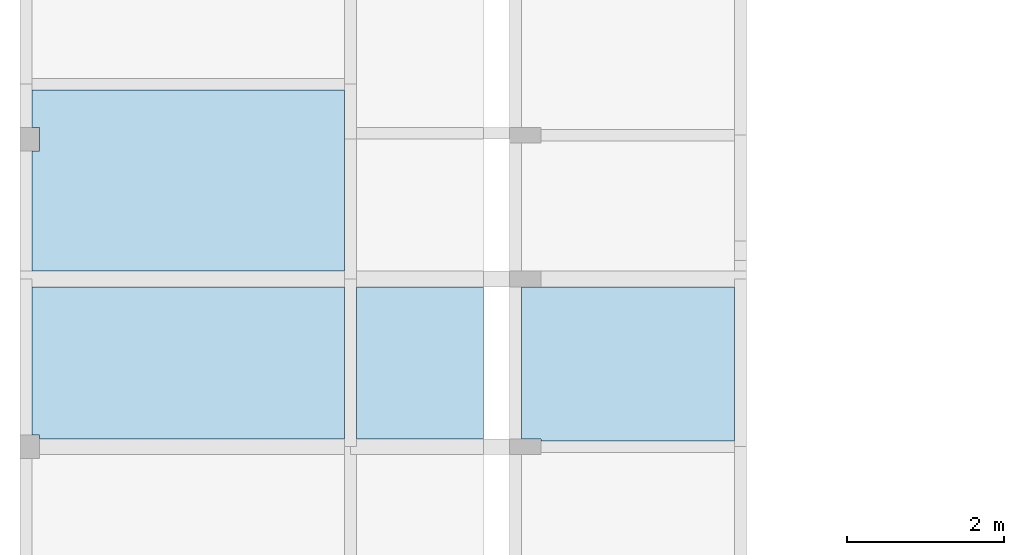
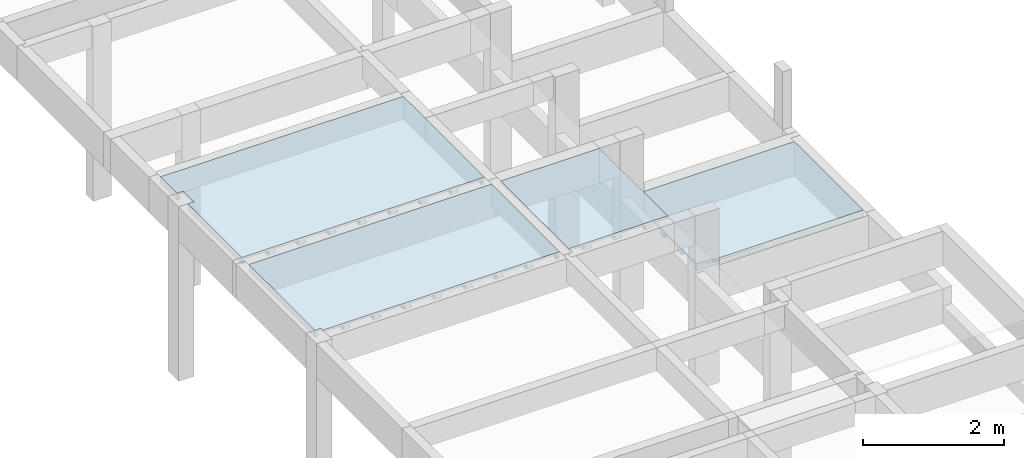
# One storey, part 11 of 21: 4 slabs.
"""IFC4 building model written with IfcOpenShell, lengths in centimetres."""

from ifc_helpers import new_model, si_unit, derived_unit, frame, origin_with_axes, place, context, project, spatial, polyline, outline, extrude, faceted_brep, material, element, save


model = new_model("IFC4")

# Units and contexts
model_context = context("Model", 3, precision=1e-05, world=origin_with_axes(), identifier="Body")
ifc_project = project(units=[si_unit("LENGTHUNIT", "METRE", prefix="CENTI"), si_unit("VOLUMEUNIT", "CUBIC_METRE"), si_unit("AREAUNIT", "SQUARE_METRE"), si_unit("POWERUNIT", "WATT"), si_unit("LUMINOUSFLUXUNIT", "LUMEN"), si_unit("ELECTRICCURRENTUNIT", "AMPERE"), si_unit("PRESSUREUNIT", "PASCAL", prefix="KILO"), si_unit("MASSUNIT", "GRAM", prefix="KILO"), si_unit("PLANEANGLEUNIT", "RADIAN"), derived_unit("VOLUMETRICFLOWRATEUNIT", [(si_unit("LENGTHUNIT", "METRE"), 3), (si_unit("TIMEUNIT", "SECOND"), -1)])], contexts=[model_context])

# Site, building, storey
site_placement = place(None, origin_with_axes())
site = spatial("IfcSite", under=ifc_project, at=site_placement)
building_placement = place(site_placement, frame((0.0, 0.0, -295.0)))
building = spatial("IfcBuilding", under=site, at=building_placement)
placement_1 = place(building_placement, origin_with_axes())
placement_2 = place(placement_1, frame((0.0, 0.0, 101.0), z_axis=(0.0, 0.0, 1.0), x_axis=(1.0, 0.0, 0.0)))
placement_3 = place(placement_2, frame((0.0, 0.0, 204.0), z_axis=(0.0, 0.0, 1.0), x_axis=(1.0, 0.0, 0.0)))
placement_4 = place(placement_3, frame((0.0, 0.0, 292.0), z_axis=(0.0, 0.0, 1.0), x_axis=(1.0, 0.0, 0.0)))
storey_placement = place(placement_4, frame((0.0, 0.0, 302.0), z_axis=(0.0, 0.0, 1.0), x_axis=(1.0, 0.0, 0.0)))
storey = spatial("IfcBuildingStorey", under=building, at=storey_placement, Name="PAVTO 02", CompositionType="ELEMENT", Elevation=604.0)

# Slabs
ifc_material = material(Name="Concreto")
slab_1_placement = place(storey_placement, frame((765.4, -5987.6245, 0.0), z_axis=(0.0, 0.0, 1.0), x_axis=(1.0, 0.0, 0.0)))
element("IfcSlab", 1, at=slab_1_placement, inside=storey, material=ifc_material, Name="L220", PredefinedType="FLOOR", context=model_context, shape_type="SolidModel", body=[
    extrude(outline(polyline([(198.67, -115.074), (198.669, 115.075), (-198.67, 115.075), (-198.669, 67.775), (-188.669, 67.774), (-188.669, 37.774), (-198.67, 37.775), (-198.67, -115.074), (198.67, -115.074), (198.67, -115.074)])), frame((0.0, -0.0005, -4.0), z_axis=(0.0, 0.0, 1.0), x_axis=(1.0, 0.0, 0.0)), (0.0, 0.0, 1.0), 4.0),
    faceted_brep([(-5.0, -115.0745, -12.0), (-5.0, 115.0745, -12.0), (5.0, 115.0745, -12.0), (5.0, -115.0745, -12.0), (5.0, -115.0745, -4.0), (5.0, 115.0745, -4.0), (-5.0, 115.0745, -4.0), (-5.0, -115.0745, -4.0)], [[[0, 1, 2, 3]], [[4, 5, 6, 7]], [[4, 3, 5]], [[3, 2, 5]], [[5, 2, 6]], [[2, 1, 6]], [[6, 1, 7]], [[1, 0, 7]], [[7, 0, 4]], [[0, 3, 4]]]),
    faceted_brep([(-6.5, -115.0745, -12.0), (-6.5, 115.0745, -12.0), (-5.0, 115.0745, -12.0), (-5.0, -115.0745, -12.0), (-5.0, -115.0745, -9.0), (-5.0, 115.0745, -9.0), (-6.5, 115.0745, -9.0), (-6.5, -115.0745, -9.0)], [[[0, 1, 2, 3]], [[4, 5, 6, 7]], [[4, 3, 5]], [[3, 2, 5]], [[5, 2, 6]], [[2, 1, 6]], [[6, 1, 7]], [[1, 0, 7]], [[7, 0, 4]], [[0, 3, 4]]]),
    faceted_brep([(5.0, -115.0745, -12.0), (5.0, 115.0745, -12.0), (6.5, 115.0745, -12.0), (6.5, -115.0745, -12.0), (6.5, -115.0745, -9.0), (6.5, 115.0745, -9.0), (5.0, 115.0745, -9.0), (5.0, -115.0745, -9.0)], [[[0, 1, 2, 3]], [[4, 5, 6, 7]], [[4, 3, 5]], [[3, 2, 5]], [[5, 2, 6]], [[2, 1, 6]], [[6, 1, 7]], [[1, 0, 7]], [[7, 0, 4]], [[0, 3, 4]]]),
    faceted_brep([(-55.0, -115.0745, -12.0), (-55.0, 115.0745, -12.0), (-45.0, 115.0745, -12.0), (-45.0, -115.0745, -12.0), (-45.0, -115.0745, -4.0), (-45.0, 115.0745, -4.0), (-55.0, 115.0745, -4.0), (-55.0, -115.0745, -4.0)], [[[0, 1, 2, 3]], [[4, 5, 6, 7]], [[4, 3, 5]], [[3, 2, 5]], [[5, 2, 6]], [[2, 1, 6]], [[6, 1, 7]], [[1, 0, 7]], [[7, 0, 4]], [[0, 3, 4]]]),
    faceted_brep([(-56.5, -115.0745, -12.0), (-56.5, 115.0745, -12.0), (-55.0, 115.0745, -12.0), (-55.0, -115.0745, -12.0), (-55.0, -115.0745, -9.0), (-55.0, 115.0745, -9.0), (-56.5, 115.0745, -9.0), (-56.5, -115.0745, -9.0)], [[[0, 1, 2, 3]], [[4, 5, 6, 7]], [[4, 3, 5]], [[3, 2, 5]], [[5, 2, 6]], [[2, 1, 6]], [[6, 1, 7]], [[1, 0, 7]], [[7, 0, 4]], [[0, 3, 4]]]),
    faceted_brep([(-45.0, -115.0745, -12.0), (-45.0, 115.0745, -12.0), (-43.5, 115.0745, -12.0), (-43.5, -115.0745, -12.0), (-43.5, -115.0745, -9.0), (-43.5, 115.0745, -9.0), (-45.0, 115.0745, -9.0), (-45.0, -115.0745, -9.0)], [[[0, 1, 2, 3]], [[4, 5, 6, 7]], [[4, 3, 5]], [[3, 2, 5]], [[5, 2, 6]], [[2, 1, 6]], [[6, 1, 7]], [[1, 0, 7]], [[7, 0, 4]], [[0, 3, 4]]]),
    faceted_brep([(-105.0, -115.0745, -12.0), (-105.0, 115.0745, -12.0), (-95.0, 115.0745, -12.0), (-95.0, -115.0745, -12.0), (-95.0, -115.0745, -4.0), (-95.0, 115.0745, -4.0), (-105.0, 115.0745, -4.0), (-105.0, -115.0745, -4.0)], [[[0, 1, 2, 3]], [[4, 5, 6, 7]], [[4, 3, 5]], [[3, 2, 5]], [[5, 2, 6]], [[2, 1, 6]], [[6, 1, 7]], [[1, 0, 7]], [[7, 0, 4]], [[0, 3, 4]]]),
    faceted_brep([(-106.5, -115.0745, -12.0), (-106.5, 115.0745, -12.0), (-105.0, 115.0745, -12.0), (-105.0, -115.0745, -12.0), (-105.0, -115.0745, -9.0), (-105.0, 115.0745, -9.0), (-106.5, 115.0745, -9.0), (-106.5, -115.0745, -9.0)], [[[0, 1, 2, 3]], [[4, 5, 6, 7]], [[4, 3, 5]], [[3, 2, 5]], [[5, 2, 6]], [[2, 1, 6]], [[6, 1, 7]], [[1, 0, 7]], [[7, 0, 4]], [[0, 3, 4]]]),
    faceted_brep([(-95.0, -115.0745, -12.0), (-95.0, 115.0745, -12.0), (-93.5, 115.0745, -12.0), (-93.5, -115.0745, -12.0), (-93.5, -115.0745, -9.0), (-93.5, 115.0745, -9.0), (-95.0, 115.0745, -9.0), (-95.0, -115.0745, -9.0)], [[[0, 1, 2, 3]], [[4, 5, 6, 7]], [[4, 3, 5]], [[3, 2, 5]], [[5, 2, 6]], [[2, 1, 6]], [[6, 1, 7]], [[1, 0, 7]], [[7, 0, 4]], [[0, 3, 4]]]),
    faceted_brep([(-155.0, -115.0745, -12.0), (-155.0, 115.0745, -12.0), (-145.0, 115.0745, -12.0), (-145.0, -115.0745, -12.0), (-145.0, -115.0745, -4.0), (-145.0, 115.0745, -4.0), (-155.0, 115.0745, -4.0), (-155.0, -115.0745, -4.0)], [[[0, 1, 2, 3]], [[4, 5, 6, 7]], [[4, 3, 5]], [[3, 2, 5]], [[5, 2, 6]], [[2, 1, 6]], [[6, 1, 7]], [[1, 0, 7]], [[7, 0, 4]], [[0, 3, 4]]]),
    faceted_brep([(-156.5, -115.0745, -12.0), (-156.5, 115.0745, -12.0), (-155.0, 115.0745, -12.0), (-155.0, -115.0745, -12.0), (-155.0, -115.0745, -9.0), (-155.0, 115.0745, -9.0), (-156.5, 115.0745, -9.0), (-156.5, -115.0745, -9.0)], [[[0, 1, 2, 3]], [[4, 5, 6, 7]], [[4, 3, 5]], [[3, 2, 5]], [[5, 2, 6]], [[2, 1, 6]], [[6, 1, 7]], [[1, 0, 7]], [[7, 0, 4]], [[0, 3, 4]]]),
    faceted_brep([(-145.0, -115.0745, -12.0), (-145.0, 115.0745, -12.0), (-143.5, 115.0745, -12.0), (-143.5, -115.0745, -12.0), (-143.5, -115.0745, -9.0), (-143.5, 115.0745, -9.0), (-145.0, 115.0745, -9.0), (-145.0, -115.0745, -9.0)], [[[0, 1, 2, 3]], [[4, 5, 6, 7]], [[4, 3, 5]], [[3, 2, 5]], [[5, 2, 6]], [[2, 1, 6]], [[6, 1, 7]], [[1, 0, 7]], [[7, 0, 4]], [[0, 3, 4]]]),
    faceted_brep([(-198.67, -115.0745, -12.0), (-198.67, 37.774, -12.0), (-195.0, 37.774, -12.0), (-195.0, -115.0745, -12.0), (-195.0, -115.0745, -4.0), (-195.0, 37.774, -4.0), (-198.67, 37.774, -4.0), (-198.67, -115.0745, -4.0)], [[[0, 1, 2, 3]], [[4, 5, 6, 7]], [[4, 3, 5]], [[3, 2, 5]], [[5, 2, 6]], [[2, 1, 6]], [[6, 1, 7]], [[1, 0, 7]], [[7, 0, 4]], [[0, 3, 4]]]),
    faceted_brep([(-195.0, -115.0745, -12.0), (-195.0, 37.774, -12.0), (-193.5, 37.774, -12.0), (-193.5, -115.0745, -12.0), (-193.5, -115.0745, -9.0), (-193.5, 37.774, -9.0), (-195.0, 37.774, -9.0), (-195.0, -115.0745, -9.0)], [[[0, 1, 2, 3]], [[4, 5, 6, 7]], [[4, 3, 5]], [[3, 2, 5]], [[5, 2, 6]], [[2, 1, 6]], [[6, 1, 7]], [[1, 0, 7]], [[7, 0, 4]], [[0, 3, 4]]]),
    faceted_brep([(-198.6695, 67.774, -12.0), (-198.6695, 115.0745, -12.0), (-195.0, 115.0745, -12.0), (-195.0, 67.774, -12.0), (-195.0, 67.774, -4.0), (-195.0, 115.0745, -4.0), (-198.6695, 115.0745, -4.0), (-198.6695, 67.774, -4.0)], [[[0, 1, 2, 3]], [[4, 5, 6, 7]], [[4, 3, 5]], [[3, 2, 5]], [[5, 2, 6]], [[2, 1, 6]], [[6, 1, 7]], [[1, 0, 7]], [[7, 0, 4]], [[0, 3, 4]]]),
    faceted_brep([(-195.0, 67.774, -12.0), (-195.0, 115.0745, -12.0), (-193.5, 115.0745, -12.0), (-193.5, 67.774, -12.0), (-193.5, 67.774, -9.0), (-193.5, 115.0745, -9.0), (-195.0, 115.0745, -9.0), (-195.0, 67.774, -9.0)], [[[0, 1, 2, 3]], [[4, 5, 6, 7]], [[4, 3, 5]], [[3, 2, 5]], [[5, 2, 6]], [[2, 1, 6]], [[6, 1, 7]], [[1, 0, 7]], [[7, 0, 4]], [[0, 3, 4]]]),
    faceted_brep([(45.0, -115.0745, -12.0), (45.0, 115.0745, -12.0), (55.0, 115.0745, -12.0), (55.0, -115.0745, -12.0), (55.0, -115.0745, -4.0), (55.0, 115.0745, -4.0), (45.0, 115.0745, -4.0), (45.0, -115.0745, -4.0)], [[[0, 1, 2, 3]], [[4, 5, 6, 7]], [[4, 3, 5]], [[3, 2, 5]], [[5, 2, 6]], [[2, 1, 6]], [[6, 1, 7]], [[1, 0, 7]], [[7, 0, 4]], [[0, 3, 4]]]),
    faceted_brep([(43.5, -115.0745, -12.0), (43.5, 115.0745, -12.0), (45.0, 115.0745, -12.0), (45.0, -115.0745, -12.0), (45.0, -115.0745, -9.0), (45.0, 115.0745, -9.0), (43.5, 115.0745, -9.0), (43.5, -115.0745, -9.0)], [[[0, 1, 2, 3]], [[4, 5, 6, 7]], [[4, 3, 5]], [[3, 2, 5]], [[5, 2, 6]], [[2, 1, 6]], [[6, 1, 7]], [[1, 0, 7]], [[7, 0, 4]], [[0, 3, 4]]]),
    faceted_brep([(55.0, -115.0745, -12.0), (55.0, 115.0745, -12.0), (56.5, 115.0745, -12.0), (56.5, -115.0745, -12.0), (56.5, -115.0745, -9.0), (56.5, 115.0745, -9.0), (55.0, 115.0745, -9.0), (55.0, -115.0745, -9.0)], [[[0, 1, 2, 3]], [[4, 5, 6, 7]], [[4, 3, 5]], [[3, 2, 5]], [[5, 2, 6]], [[2, 1, 6]], [[6, 1, 7]], [[1, 0, 7]], [[7, 0, 4]], [[0, 3, 4]]]),
    faceted_brep([(95.0, -115.0745, -12.0), (95.0, 115.0745, -12.0), (105.0, 115.0745, -12.0), (105.0, -115.0745, -12.0), (105.0, -115.0745, -4.0), (105.0, 115.0745, -4.0), (95.0, 115.0745, -4.0), (95.0, -115.0745, -4.0)], [[[0, 1, 2, 3]], [[4, 5, 6, 7]], [[4, 3, 5]], [[3, 2, 5]], [[5, 2, 6]], [[2, 1, 6]], [[6, 1, 7]], [[1, 0, 7]], [[7, 0, 4]], [[0, 3, 4]]]),
    faceted_brep([(93.5, -115.0745, -12.0), (93.5, 115.0745, -12.0), (95.0, 115.0745, -12.0), (95.0, -115.0745, -12.0), (95.0, -115.0745, -9.0), (95.0, 115.0745, -9.0), (93.5, 115.0745, -9.0), (93.5, -115.0745, -9.0)], [[[0, 1, 2, 3]], [[4, 5, 6, 7]], [[4, 3, 5]], [[3, 2, 5]], [[5, 2, 6]], [[2, 1, 6]], [[6, 1, 7]], [[1, 0, 7]], [[7, 0, 4]], [[0, 3, 4]]]),
    faceted_brep([(105.0, -115.0745, -12.0), (105.0, 115.0745, -12.0), (106.5, 115.0745, -12.0), (106.5, -115.0745, -12.0), (106.5, -115.0745, -9.0), (106.5, 115.0745, -9.0), (105.0, 115.0745, -9.0), (105.0, -115.0745, -9.0)], [[[0, 1, 2, 3]], [[4, 5, 6, 7]], [[4, 3, 5]], [[3, 2, 5]], [[5, 2, 6]], [[2, 1, 6]], [[6, 1, 7]], [[1, 0, 7]], [[7, 0, 4]], [[0, 3, 4]]]),
    faceted_brep([(145.0, -115.0745, -12.0), (145.0, 115.0745, -12.0), (155.0, 115.0745, -12.0), (155.0, -115.0745, -12.0), (155.0, -115.0745, -4.0), (155.0, 115.0745, -4.0), (145.0, 115.0745, -4.0), (145.0, -115.0745, -4.0)], [[[0, 1, 2, 3]], [[4, 5, 6, 7]], [[4, 3, 5]], [[3, 2, 5]], [[5, 2, 6]], [[2, 1, 6]], [[6, 1, 7]], [[1, 0, 7]], [[7, 0, 4]], [[0, 3, 4]]]),
    faceted_brep([(143.5, -115.0745, -12.0), (143.5, 115.0745, -12.0), (145.0, 115.0745, -12.0), (145.0, -115.0745, -12.0), (145.0, -115.0745, -9.0), (145.0, 115.0745, -9.0), (143.5, 115.0745, -9.0), (143.5, -115.0745, -9.0)], [[[0, 1, 2, 3]], [[4, 5, 6, 7]], [[4, 3, 5]], [[3, 2, 5]], [[5, 2, 6]], [[2, 1, 6]], [[6, 1, 7]], [[1, 0, 7]], [[7, 0, 4]], [[0, 3, 4]]]),
    faceted_brep([(155.0, -115.0745, -12.0), (155.0, 115.0745, -12.0), (156.5, 115.0745, -12.0), (156.5, -115.0745, -12.0), (156.5, -115.0745, -9.0), (156.5, 115.0745, -9.0), (155.0, 115.0745, -9.0), (155.0, -115.0745, -9.0)], [[[0, 1, 2, 3]], [[4, 5, 6, 7]], [[4, 3, 5]], [[3, 2, 5]], [[5, 2, 6]], [[2, 1, 6]], [[6, 1, 7]], [[1, 0, 7]], [[7, 0, 4]], [[0, 3, 4]]]),
    faceted_brep([(195.0, -115.0745, -12.0), (195.0, 115.0745, -12.0), (198.6695, 115.0745, -12.0), (198.6695, -115.0745, -12.0), (198.6695, -115.0745, -4.0), (198.6695, 115.0745, -4.0), (195.0, 115.0745, -4.0), (195.0, -115.0745, -4.0)], [[[0, 1, 2, 3]], [[4, 5, 6, 7]], [[4, 3, 5]], [[3, 2, 5]], [[5, 2, 6]], [[2, 1, 6]], [[6, 1, 7]], [[1, 0, 7]], [[7, 0, 4]], [[0, 3, 4]]]),
    faceted_brep([(193.5, -115.0745, -12.0), (193.5, 115.0745, -12.0), (195.0, 115.0745, -12.0), (195.0, -115.0745, -12.0), (195.0, -115.0745, -9.0), (195.0, 115.0745, -9.0), (193.5, 115.0745, -9.0), (193.5, -115.0745, -9.0)], [[[0, 1, 2, 3]], [[4, 5, 6, 7]], [[4, 3, 5]], [[3, 2, 5]], [[5, 2, 6]], [[2, 1, 6]], [[6, 1, 7]], [[1, 0, 7]], [[7, 0, 4]], [[0, 3, 4]]]),
])
slab_2_placement = place(storey_placement, frame((765.4, -6219.16, 0.0), z_axis=(0.0, 0.0, 1.0), x_axis=(1.0, 0.0, 0.0)))
element("IfcSlab", 2, at=slab_2_placement, inside=storey, material=ifc_material, Name="L224", PredefinedType="FLOOR", context=model_context, shape_type="SolidModel", body=[
    extrude(outline(polyline([(198.67, 96.46), (-198.669, 96.46), (-198.67, -91.459), (-188.669, -91.459), (-188.669, -96.46), (198.669, -96.46), (198.67, 96.46), (198.67, 96.46)])), frame((0.0, 0.0, -4.0), z_axis=(0.0, 0.0, 1.0), x_axis=(1.0, 0.0, 0.0)), (0.0, 0.0, 1.0), 4.0),
    faceted_brep([(-5.0, -96.46, -12.0), (-5.0, 96.46, -12.0), (5.0, 96.46, -12.0), (5.0, -96.46, -12.0), (5.0, -96.46, -4.0), (5.0, 96.46, -4.0), (-5.0, 96.46, -4.0), (-5.0, -96.46, -4.0)], [[[0, 1, 2, 3]], [[4, 5, 6, 7]], [[4, 3, 5]], [[3, 2, 5]], [[5, 2, 6]], [[2, 1, 6]], [[6, 1, 7]], [[1, 0, 7]], [[7, 0, 4]], [[0, 3, 4]]]),
    faceted_brep([(-6.5, -96.46, -12.0), (-6.5, 96.46, -12.0), (-5.0, 96.46, -12.0), (-5.0, -96.46, -12.0), (-5.0, -96.46, -9.0), (-5.0, 96.46, -9.0), (-6.5, 96.46, -9.0), (-6.5, -96.46, -9.0)], [[[0, 1, 2, 3]], [[4, 5, 6, 7]], [[4, 3, 5]], [[3, 2, 5]], [[5, 2, 6]], [[2, 1, 6]], [[6, 1, 7]], [[1, 0, 7]], [[7, 0, 4]], [[0, 3, 4]]]),
    faceted_brep([(5.0, -96.46, -12.0), (5.0, 96.46, -12.0), (6.5, 96.46, -12.0), (6.5, -96.46, -12.0), (6.5, -96.46, -9.0), (6.5, 96.46, -9.0), (5.0, 96.46, -9.0), (5.0, -96.46, -9.0)], [[[0, 1, 2, 3]], [[4, 5, 6, 7]], [[4, 3, 5]], [[3, 2, 5]], [[5, 2, 6]], [[2, 1, 6]], [[6, 1, 7]], [[1, 0, 7]], [[7, 0, 4]], [[0, 3, 4]]]),
    faceted_brep([(-55.0, -96.46, -12.0), (-55.0, 96.46, -12.0), (-45.0, 96.46, -12.0), (-45.0, -96.46, -12.0), (-45.0, -96.46, -4.0), (-45.0, 96.46, -4.0), (-55.0, 96.46, -4.0), (-55.0, -96.46, -4.0)], [[[0, 1, 2, 3]], [[4, 5, 6, 7]], [[4, 3, 5]], [[3, 2, 5]], [[5, 2, 6]], [[2, 1, 6]], [[6, 1, 7]], [[1, 0, 7]], [[7, 0, 4]], [[0, 3, 4]]]),
    faceted_brep([(-56.5, -96.46, -12.0), (-56.5, 96.46, -12.0), (-55.0, 96.46, -12.0), (-55.0, -96.46, -12.0), (-55.0, -96.46, -9.0), (-55.0, 96.46, -9.0), (-56.5, 96.46, -9.0), (-56.5, -96.46, -9.0)], [[[0, 1, 2, 3]], [[4, 5, 6, 7]], [[4, 3, 5]], [[3, 2, 5]], [[5, 2, 6]], [[2, 1, 6]], [[6, 1, 7]], [[1, 0, 7]], [[7, 0, 4]], [[0, 3, 4]]]),
    faceted_brep([(-45.0, -96.46, -12.0), (-45.0, 96.46, -12.0), (-43.5, 96.46, -12.0), (-43.5, -96.46, -12.0), (-43.5, -96.46, -9.0), (-43.5, 96.46, -9.0), (-45.0, 96.46, -9.0), (-45.0, -96.46, -9.0)], [[[0, 1, 2, 3]], [[4, 5, 6, 7]], [[4, 3, 5]], [[3, 2, 5]], [[5, 2, 6]], [[2, 1, 6]], [[6, 1, 7]], [[1, 0, 7]], [[7, 0, 4]], [[0, 3, 4]]]),
    faceted_brep([(-105.0, -96.46, -12.0), (-105.0, 96.46, -12.0), (-95.0, 96.46, -12.0), (-95.0, -96.46, -12.0), (-95.0, -96.46, -4.0), (-95.0, 96.46, -4.0), (-105.0, 96.46, -4.0), (-105.0, -96.46, -4.0)], [[[0, 1, 2, 3]], [[4, 5, 6, 7]], [[4, 3, 5]], [[3, 2, 5]], [[5, 2, 6]], [[2, 1, 6]], [[6, 1, 7]], [[1, 0, 7]], [[7, 0, 4]], [[0, 3, 4]]]),
    faceted_brep([(-106.5, -96.46, -12.0), (-106.5, 96.46, -12.0), (-105.0, 96.46, -12.0), (-105.0, -96.46, -12.0), (-105.0, -96.46, -9.0), (-105.0, 96.46, -9.0), (-106.5, 96.46, -9.0), (-106.5, -96.46, -9.0)], [[[0, 1, 2, 3]], [[4, 5, 6, 7]], [[4, 3, 5]], [[3, 2, 5]], [[5, 2, 6]], [[2, 1, 6]], [[6, 1, 7]], [[1, 0, 7]], [[7, 0, 4]], [[0, 3, 4]]]),
    faceted_brep([(-95.0, -96.46, -12.0), (-95.0, 96.46, -12.0), (-93.5, 96.46, -12.0), (-93.5, -96.46, -12.0), (-93.5, -96.46, -9.0), (-93.5, 96.46, -9.0), (-95.0, 96.46, -9.0), (-95.0, -96.46, -9.0)], [[[0, 1, 2, 3]], [[4, 5, 6, 7]], [[4, 3, 5]], [[3, 2, 5]], [[5, 2, 6]], [[2, 1, 6]], [[6, 1, 7]], [[1, 0, 7]], [[7, 0, 4]], [[0, 3, 4]]]),
    faceted_brep([(-155.0, -96.46, -12.0), (-155.0, 96.46, -12.0), (-145.0, 96.46, -12.0), (-145.0, -96.46, -12.0), (-145.0, -96.46, -4.0), (-145.0, 96.46, -4.0), (-155.0, 96.46, -4.0), (-155.0, -96.46, -4.0)], [[[0, 1, 2, 3]], [[4, 5, 6, 7]], [[4, 3, 5]], [[3, 2, 5]], [[5, 2, 6]], [[2, 1, 6]], [[6, 1, 7]], [[1, 0, 7]], [[7, 0, 4]], [[0, 3, 4]]]),
    faceted_brep([(-156.5, -96.46, -12.0), (-156.5, 96.46, -12.0), (-155.0, 96.46, -12.0), (-155.0, -96.46, -12.0), (-155.0, -96.46, -9.0), (-155.0, 96.46, -9.0), (-156.5, 96.46, -9.0), (-156.5, -96.46, -9.0)], [[[0, 1, 2, 3]], [[4, 5, 6, 7]], [[4, 3, 5]], [[3, 2, 5]], [[5, 2, 6]], [[2, 1, 6]], [[6, 1, 7]], [[1, 0, 7]], [[7, 0, 4]], [[0, 3, 4]]]),
    faceted_brep([(-145.0, -96.46, -12.0), (-145.0, 96.46, -12.0), (-143.5, 96.46, -12.0), (-143.5, -96.46, -12.0), (-143.5, -96.46, -9.0), (-143.5, 96.46, -9.0), (-145.0, 96.46, -9.0), (-145.0, -96.46, -9.0)], [[[0, 1, 2, 3]], [[4, 5, 6, 7]], [[4, 3, 5]], [[3, 2, 5]], [[5, 2, 6]], [[2, 1, 6]], [[6, 1, 7]], [[1, 0, 7]], [[7, 0, 4]], [[0, 3, 4]]]),
    faceted_brep([(-198.6695, -91.459, -12.0), (-198.6695, 96.46, -12.0), (-195.0, 96.46, -12.0), (-195.0, -91.459, -12.0), (-195.0, -91.459, -4.0), (-195.0, 96.46, -4.0), (-198.6695, 96.46, -4.0), (-198.6695, -91.459, -4.0)], [[[0, 1, 2, 3]], [[4, 5, 6, 7]], [[4, 3, 5]], [[3, 2, 5]], [[5, 2, 6]], [[2, 1, 6]], [[6, 1, 7]], [[1, 0, 7]], [[7, 0, 4]], [[0, 3, 4]]]),
    faceted_brep([(-195.0, -91.459, -12.0), (-195.0, 96.46, -12.0), (-193.5, 96.46, -12.0), (-193.5, -91.459, -12.0), (-193.5, -91.459, -9.0), (-193.5, 96.46, -9.0), (-195.0, 96.46, -9.0), (-195.0, -91.459, -9.0)], [[[0, 1, 2, 3]], [[4, 5, 6, 7]], [[4, 3, 5]], [[3, 2, 5]], [[5, 2, 6]], [[2, 1, 6]], [[6, 1, 7]], [[1, 0, 7]], [[7, 0, 4]], [[0, 3, 4]]]),
    faceted_brep([(45.0, -96.46, -12.0), (45.0, 96.46, -12.0), (55.0, 96.46, -12.0), (55.0, -96.46, -12.0), (55.0, -96.46, -4.0), (55.0, 96.46, -4.0), (45.0, 96.46, -4.0), (45.0, -96.46, -4.0)], [[[0, 1, 2, 3]], [[4, 5, 6, 7]], [[4, 3, 5]], [[3, 2, 5]], [[5, 2, 6]], [[2, 1, 6]], [[6, 1, 7]], [[1, 0, 7]], [[7, 0, 4]], [[0, 3, 4]]]),
    faceted_brep([(43.5, -96.46, -12.0), (43.5, 96.46, -12.0), (45.0, 96.46, -12.0), (45.0, -96.46, -12.0), (45.0, -96.46, -9.0), (45.0, 96.46, -9.0), (43.5, 96.46, -9.0), (43.5, -96.46, -9.0)], [[[0, 1, 2, 3]], [[4, 5, 6, 7]], [[4, 3, 5]], [[3, 2, 5]], [[5, 2, 6]], [[2, 1, 6]], [[6, 1, 7]], [[1, 0, 7]], [[7, 0, 4]], [[0, 3, 4]]]),
    faceted_brep([(55.0, -96.46, -12.0), (55.0, 96.46, -12.0), (56.5, 96.46, -12.0), (56.5, -96.46, -12.0), (56.5, -96.46, -9.0), (56.5, 96.46, -9.0), (55.0, 96.46, -9.0), (55.0, -96.46, -9.0)], [[[0, 1, 2, 3]], [[4, 5, 6, 7]], [[4, 3, 5]], [[3, 2, 5]], [[5, 2, 6]], [[2, 1, 6]], [[6, 1, 7]], [[1, 0, 7]], [[7, 0, 4]], [[0, 3, 4]]]),
    faceted_brep([(95.0, -96.46, -12.0), (95.0, 96.46, -12.0), (105.0, 96.46, -12.0), (105.0, -96.46, -12.0), (105.0, -96.46, -4.0), (105.0, 96.46, -4.0), (95.0, 96.46, -4.0), (95.0, -96.46, -4.0)], [[[0, 1, 2, 3]], [[4, 5, 6, 7]], [[4, 3, 5]], [[3, 2, 5]], [[5, 2, 6]], [[2, 1, 6]], [[6, 1, 7]], [[1, 0, 7]], [[7, 0, 4]], [[0, 3, 4]]]),
    faceted_brep([(93.5, -96.46, -12.0), (93.5, 96.46, -12.0), (95.0, 96.46, -12.0), (95.0, -96.46, -12.0), (95.0, -96.46, -9.0), (95.0, 96.46, -9.0), (93.5, 96.46, -9.0), (93.5, -96.46, -9.0)], [[[0, 1, 2, 3]], [[4, 5, 6, 7]], [[4, 3, 5]], [[3, 2, 5]], [[5, 2, 6]], [[2, 1, 6]], [[6, 1, 7]], [[1, 0, 7]], [[7, 0, 4]], [[0, 3, 4]]]),
    faceted_brep([(105.0, -96.46, -12.0), (105.0, 96.46, -12.0), (106.5, 96.46, -12.0), (106.5, -96.46, -12.0), (106.5, -96.46, -9.0), (106.5, 96.46, -9.0), (105.0, 96.46, -9.0), (105.0, -96.46, -9.0)], [[[0, 1, 2, 3]], [[4, 5, 6, 7]], [[4, 3, 5]], [[3, 2, 5]], [[5, 2, 6]], [[2, 1, 6]], [[6, 1, 7]], [[1, 0, 7]], [[7, 0, 4]], [[0, 3, 4]]]),
    faceted_brep([(145.0, -96.46, -12.0), (145.0, 96.46, -12.0), (155.0, 96.46, -12.0), (155.0, -96.46, -12.0), (155.0, -96.46, -4.0), (155.0, 96.46, -4.0), (145.0, 96.46, -4.0), (145.0, -96.46, -4.0)], [[[0, 1, 2, 3]], [[4, 5, 6, 7]], [[4, 3, 5]], [[3, 2, 5]], [[5, 2, 6]], [[2, 1, 6]], [[6, 1, 7]], [[1, 0, 7]], [[7, 0, 4]], [[0, 3, 4]]]),
    faceted_brep([(143.5, -96.46, -12.0), (143.5, 96.46, -12.0), (145.0, 96.46, -12.0), (145.0, -96.46, -12.0), (145.0, -96.46, -9.0), (145.0, 96.46, -9.0), (143.5, 96.46, -9.0), (143.5, -96.46, -9.0)], [[[0, 1, 2, 3]], [[4, 5, 6, 7]], [[4, 3, 5]], [[3, 2, 5]], [[5, 2, 6]], [[2, 1, 6]], [[6, 1, 7]], [[1, 0, 7]], [[7, 0, 4]], [[0, 3, 4]]]),
    faceted_brep([(155.0, -96.46, -12.0), (155.0, 96.46, -12.0), (156.5, 96.46, -12.0), (156.5, -96.46, -12.0), (156.5, -96.46, -9.0), (156.5, 96.46, -9.0), (155.0, 96.46, -9.0), (155.0, -96.46, -9.0)], [[[0, 1, 2, 3]], [[4, 5, 6, 7]], [[4, 3, 5]], [[3, 2, 5]], [[5, 2, 6]], [[2, 1, 6]], [[6, 1, 7]], [[1, 0, 7]], [[7, 0, 4]], [[0, 3, 4]]]),
    faceted_brep([(195.0, -96.46, -12.0), (195.0, 96.46, -12.0), (198.6695, 96.46, -12.0), (198.6695, -96.46, -12.0), (198.6695, -96.46, -4.0), (198.6695, 96.46, -4.0), (195.0, 96.46, -4.0), (195.0, -96.46, -4.0)], [[[0, 1, 2, 3]], [[4, 5, 6, 7]], [[4, 3, 5]], [[3, 2, 5]], [[5, 2, 6]], [[2, 1, 6]], [[6, 1, 7]], [[1, 0, 7]], [[7, 0, 4]], [[0, 3, 4]]]),
    faceted_brep([(193.5, -96.46, -12.0), (193.5, 96.46, -12.0), (195.0, 96.46, -12.0), (195.0, -96.46, -12.0), (195.0, -96.46, -9.0), (195.0, 96.46, -9.0), (193.5, 96.46, -9.0), (193.5, -96.46, -9.0)], [[[0, 1, 2, 3]], [[4, 5, 6, 7]], [[4, 3, 5]], [[3, 2, 5]], [[5, 2, 6]], [[2, 1, 6]], [[6, 1, 7]], [[1, 0, 7]], [[7, 0, 4]], [[0, 3, 4]]]),
])
slab_3_placement = place(storey_placement, frame((1059.985, -6219.1595, 0.0), z_axis=(0.0, 0.0, 1.0), x_axis=(1.0, 0.0, 0.0)))
element("IfcSlab", 3, at=slab_3_placement, inside=storey, material=ifc_material, Name="L225", PredefinedType="FLOOR", context=model_context, shape_type="SolidModel", body=[
    extrude(outline(polyline([(80.915, 96.46), (-80.915, 96.46), (-80.915, -96.459), (80.915, -96.459), (80.915, 96.46), (80.915, 96.46)])), frame((0.0, -0.0005, -4.0), z_axis=(0.0, 0.0, 1.0), x_axis=(1.0, 0.0, 0.0)), (0.0, 0.0, 1.0), 4.0),
    faceted_brep([(-5.0, -96.4595, -12.0), (-5.0, 96.4595, -12.0), (5.0, 96.4595, -12.0), (5.0, -96.4595, -12.0), (5.0, -96.4595, -4.0), (5.0, 96.4595, -4.0), (-5.0, 96.4595, -4.0), (-5.0, -96.4595, -4.0)], [[[0, 1, 2, 3]], [[4, 5, 6, 7]], [[4, 3, 5]], [[3, 2, 5]], [[5, 2, 6]], [[2, 1, 6]], [[6, 1, 7]], [[1, 0, 7]], [[7, 0, 4]], [[0, 3, 4]]]),
    faceted_brep([(-6.5, -96.4595, -12.0), (-6.5, 96.4595, -12.0), (-5.0, 96.4595, -12.0), (-5.0, -96.4595, -12.0), (-5.0, -96.4595, -9.0), (-5.0, 96.4595, -9.0), (-6.5, 96.4595, -9.0), (-6.5, -96.4595, -9.0)], [[[0, 1, 2, 3]], [[4, 5, 6, 7]], [[4, 3, 5]], [[3, 2, 5]], [[5, 2, 6]], [[2, 1, 6]], [[6, 1, 7]], [[1, 0, 7]], [[7, 0, 4]], [[0, 3, 4]]]),
    faceted_brep([(5.0, -96.4595, -12.0), (5.0, 96.4595, -12.0), (6.5, 96.4595, -12.0), (6.5, -96.4595, -12.0), (6.5, -96.4595, -9.0), (6.5, 96.4595, -9.0), (5.0, 96.4595, -9.0), (5.0, -96.4595, -9.0)], [[[0, 1, 2, 3]], [[4, 5, 6, 7]], [[4, 3, 5]], [[3, 2, 5]], [[5, 2, 6]], [[2, 1, 6]], [[6, 1, 7]], [[1, 0, 7]], [[7, 0, 4]], [[0, 3, 4]]]),
    faceted_brep([(-55.0, -96.4595, -12.0), (-55.0, 96.4595, -12.0), (-45.0, 96.4595, -12.0), (-45.0, -96.4595, -12.0), (-45.0, -96.4595, -4.0), (-45.0, 96.4595, -4.0), (-55.0, 96.4595, -4.0), (-55.0, -96.4595, -4.0)], [[[0, 1, 2, 3]], [[4, 5, 6, 7]], [[4, 3, 5]], [[3, 2, 5]], [[5, 2, 6]], [[2, 1, 6]], [[6, 1, 7]], [[1, 0, 7]], [[7, 0, 4]], [[0, 3, 4]]]),
    faceted_brep([(-56.5, -96.4595, -12.0), (-56.5, 96.4595, -12.0), (-55.0, 96.4595, -12.0), (-55.0, -96.4595, -12.0), (-55.0, -96.4595, -9.0), (-55.0, 96.4595, -9.0), (-56.5, 96.4595, -9.0), (-56.5, -96.4595, -9.0)], [[[0, 1, 2, 3]], [[4, 5, 6, 7]], [[4, 3, 5]], [[3, 2, 5]], [[5, 2, 6]], [[2, 1, 6]], [[6, 1, 7]], [[1, 0, 7]], [[7, 0, 4]], [[0, 3, 4]]]),
    faceted_brep([(-45.0, -96.4595, -12.0), (-45.0, 96.4595, -12.0), (-43.5, 96.4595, -12.0), (-43.5, -96.4595, -12.0), (-43.5, -96.4595, -9.0), (-43.5, 96.4595, -9.0), (-45.0, 96.4595, -9.0), (-45.0, -96.4595, -9.0)], [[[0, 1, 2, 3]], [[4, 5, 6, 7]], [[4, 3, 5]], [[3, 2, 5]], [[5, 2, 6]], [[2, 1, 6]], [[6, 1, 7]], [[1, 0, 7]], [[7, 0, 4]], [[0, 3, 4]]]),
    faceted_brep([(45.0, -96.4595, -12.0), (45.0, 96.4595, -12.0), (55.0, 96.4595, -12.0), (55.0, -96.4595, -12.0), (55.0, -96.4595, -4.0), (55.0, 96.4595, -4.0), (45.0, 96.4595, -4.0), (45.0, -96.4595, -4.0)], [[[0, 1, 2, 3]], [[4, 5, 6, 7]], [[4, 3, 5]], [[3, 2, 5]], [[5, 2, 6]], [[2, 1, 6]], [[6, 1, 7]], [[1, 0, 7]], [[7, 0, 4]], [[0, 3, 4]]]),
    faceted_brep([(43.5, -96.4595, -12.0), (43.5, 96.4595, -12.0), (45.0, 96.4595, -12.0), (45.0, -96.4595, -12.0), (45.0, -96.4595, -9.0), (45.0, 96.4595, -9.0), (43.5, 96.4595, -9.0), (43.5, -96.4595, -9.0)], [[[0, 1, 2, 3]], [[4, 5, 6, 7]], [[4, 3, 5]], [[3, 2, 5]], [[5, 2, 6]], [[2, 1, 6]], [[6, 1, 7]], [[1, 0, 7]], [[7, 0, 4]], [[0, 3, 4]]]),
    faceted_brep([(55.0, -96.4595, -12.0), (55.0, 96.4595, -12.0), (56.5, 96.4595, -12.0), (56.5, -96.4595, -12.0), (56.5, -96.4595, -9.0), (56.5, 96.4595, -9.0), (55.0, 96.4595, -9.0), (55.0, -96.4595, -9.0)], [[[0, 1, 2, 3]], [[4, 5, 6, 7]], [[4, 3, 5]], [[3, 2, 5]], [[5, 2, 6]], [[2, 1, 6]], [[6, 1, 7]], [[1, 0, 7]], [[7, 0, 4]], [[0, 3, 4]]]),
])
slab_4_placement = place(storey_placement, frame((1324.3995, -6220.41, -100.0), z_axis=(0.0, 0.0, 1.0), x_axis=(1.0, 0.0, 0.0)))
element("IfcSlab", 4, at=slab_4_placement, inside=storey, material=ifc_material, Name="L249", PredefinedType="FLOOR", context=model_context, shape_type="SolidModel", body=[
    extrude(outline(polyline([(135.499, 97.709), (-135.499, 97.71), (-135.5, -95.209), (-110.499, -95.209), (-110.5, -97.71), (135.499, -97.71), (135.499, 97.709), (135.499, 97.709)])), frame((0.0005, 0.0, -4.0), z_axis=(0.0, 0.0, 1.0), x_axis=(1.0, 0.0, 0.0)), (0.0, 0.0, 1.0), 4.0),
    faceted_brep([(-135.499, -40.0, -12.0), (135.4995, -40.0, -12.0), (135.4995, -50.0, -12.0), (-135.499, -50.0, -12.0), (-135.499, -50.0, -4.0), (135.4995, -50.0, -4.0), (135.4995, -40.0, -4.0), (-135.499, -40.0, -4.0)], [[[0, 1, 2, 3]], [[4, 5, 6, 7]], [[4, 3, 5]], [[3, 2, 5]], [[5, 2, 6]], [[2, 1, 6]], [[6, 1, 7]], [[1, 0, 7]], [[7, 0, 4]], [[0, 3, 4]]]),
    faceted_brep([(-135.499, -38.5, -12.0), (135.4995, -38.5, -12.0), (135.4995, -40.0, -12.0), (-135.499, -40.0, -12.0), (-135.499, -40.0, -9.0), (135.4995, -40.0, -9.0), (135.4995, -38.5, -9.0), (-135.499, -38.5, -9.0)], [[[0, 1, 2, 3]], [[4, 5, 6, 7]], [[4, 3, 5]], [[3, 2, 5]], [[5, 2, 6]], [[2, 1, 6]], [[6, 1, 7]], [[1, 0, 7]], [[7, 0, 4]], [[0, 3, 4]]]),
    faceted_brep([(-135.499, -50.0, -12.0), (135.4995, -50.0, -12.0), (135.4995, -51.5, -12.0), (-135.499, -51.5, -12.0), (-135.499, -51.5, -9.0), (135.4995, -51.5, -9.0), (135.4995, -50.0, -9.0), (-135.499, -50.0, -9.0)], [[[0, 1, 2, 3]], [[4, 5, 6, 7]], [[4, 3, 5]], [[3, 2, 5]], [[5, 2, 6]], [[2, 1, 6]], [[6, 1, 7]], [[1, 0, 7]], [[7, 0, 4]], [[0, 3, 4]]]),
    faceted_brep([(-135.499, 10.0, -12.0), (135.4995, 10.0, -12.0), (135.4995, 0.0, -12.0), (-135.499, 0.0, -12.0), (-135.499, 0.0, -4.0), (135.4995, 0.0, -4.0), (135.4995, 10.0, -4.0), (-135.499, 10.0, -4.0)], [[[0, 1, 2, 3]], [[4, 5, 6, 7]], [[4, 3, 5]], [[3, 2, 5]], [[5, 2, 6]], [[2, 1, 6]], [[6, 1, 7]], [[1, 0, 7]], [[7, 0, 4]], [[0, 3, 4]]]),
    faceted_brep([(-135.499, 11.5, -12.0), (135.4995, 11.5, -12.0), (135.4995, 10.0, -12.0), (-135.499, 10.0, -12.0), (-135.499, 10.0, -9.0), (135.4995, 10.0, -9.0), (135.4995, 11.5, -9.0), (-135.499, 11.5, -9.0)], [[[0, 1, 2, 3]], [[4, 5, 6, 7]], [[4, 3, 5]], [[3, 2, 5]], [[5, 2, 6]], [[2, 1, 6]], [[6, 1, 7]], [[1, 0, 7]], [[7, 0, 4]], [[0, 3, 4]]]),
    faceted_brep([(-135.499, 0.0, -12.0), (135.4995, 0.0, -12.0), (135.4995, -1.5, -12.0), (-135.499, -1.5, -12.0), (-135.499, -1.5, -9.0), (135.4995, -1.5, -9.0), (135.4995, 0.0, -9.0), (-135.499, 0.0, -9.0)], [[[0, 1, 2, 3]], [[4, 5, 6, 7]], [[4, 3, 5]], [[3, 2, 5]], [[5, 2, 6]], [[2, 1, 6]], [[6, 1, 7]], [[1, 0, 7]], [[7, 0, 4]], [[0, 3, 4]]]),
    faceted_brep([(-135.499, 60.0, -12.0), (135.4995, 60.0, -12.0), (135.4995, 50.0, -12.0), (-135.499, 50.0, -12.0), (-135.499, 50.0, -4.0), (135.4995, 50.0, -4.0), (135.4995, 60.0, -4.0), (-135.499, 60.0, -4.0)], [[[0, 1, 2, 3]], [[4, 5, 6, 7]], [[4, 3, 5]], [[3, 2, 5]], [[5, 2, 6]], [[2, 1, 6]], [[6, 1, 7]], [[1, 0, 7]], [[7, 0, 4]], [[0, 3, 4]]]),
    faceted_brep([(-135.499, 61.5, -12.0), (135.4995, 61.5, -12.0), (135.4995, 60.0, -12.0), (-135.499, 60.0, -12.0), (-135.499, 60.0, -9.0), (135.4995, 60.0, -9.0), (135.4995, 61.5, -9.0), (-135.499, 61.5, -9.0)], [[[0, 1, 2, 3]], [[4, 5, 6, 7]], [[4, 3, 5]], [[3, 2, 5]], [[5, 2, 6]], [[2, 1, 6]], [[6, 1, 7]], [[1, 0, 7]], [[7, 0, 4]], [[0, 3, 4]]]),
    faceted_brep([(-135.499, 50.0, -12.0), (135.4995, 50.0, -12.0), (135.4995, 48.5, -12.0), (-135.499, 48.5, -12.0), (-135.499, 48.5, -9.0), (135.4995, 48.5, -9.0), (135.4995, 50.0, -9.0), (-135.499, 50.0, -9.0)], [[[0, 1, 2, 3]], [[4, 5, 6, 7]], [[4, 3, 5]], [[3, 2, 5]], [[5, 2, 6]], [[2, 1, 6]], [[6, 1, 7]], [[1, 0, 7]], [[7, 0, 4]], [[0, 3, 4]]]),
    faceted_brep([(-135.499, -90.0, -12.0), (135.4995, -90.0, -12.0), (135.4995, -97.71, -12.0), (-135.499, -95.209, -12.0), (-135.499, -95.209, -4.0), (135.4995, -97.71, -4.0), (135.4995, -90.0, -4.0), (-135.499, -90.0, -4.0)], [[[0, 1, 2, 3]], [[4, 5, 6, 7]], [[4, 3, 5]], [[3, 2, 5]], [[5, 2, 6]], [[2, 1, 6]], [[6, 1, 7]], [[1, 0, 7]], [[7, 0, 4]], [[0, 3, 4]]]),
    faceted_brep([(-135.499, -88.5, -12.0), (135.4995, -88.5, -12.0), (135.4995, -90.0, -12.0), (-135.499, -90.0, -12.0), (-135.499, -90.0, -9.0), (135.4995, -90.0, -9.0), (135.4995, -88.5, -9.0), (-135.499, -88.5, -9.0)], [[[0, 1, 2, 3]], [[4, 5, 6, 7]], [[4, 3, 5]], [[3, 2, 5]], [[5, 2, 6]], [[2, 1, 6]], [[6, 1, 7]], [[1, 0, 7]], [[7, 0, 4]], [[0, 3, 4]]]),
    faceted_brep([(-135.499, -95.209, -12.0), (135.4995, -97.71, -12.0), (135.4995, -97.71, -12.0), (-135.499, -95.209, -12.0), (-135.499, -95.209, -9.0), (135.4995, -97.71, -9.0), (135.4995, -97.71, -9.0), (-135.499, -95.209, -9.0)], [[[0, 1, 2, 3]], [[4, 5, 6, 7]], [[4, 3, 5]], [[3, 2, 5]], [[5, 2, 6]], [[2, 1, 6]], [[6, 1, 7]], [[1, 0, 7]], [[7, 0, 4]], [[0, 3, 4]]]),
])

save(model, "model.ifc")
